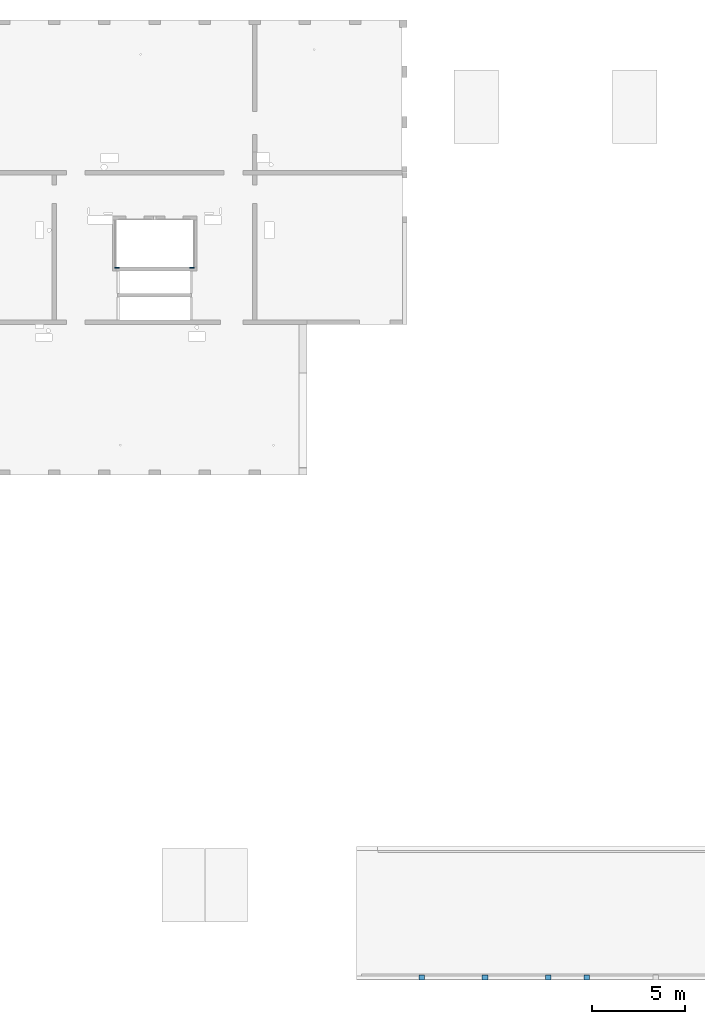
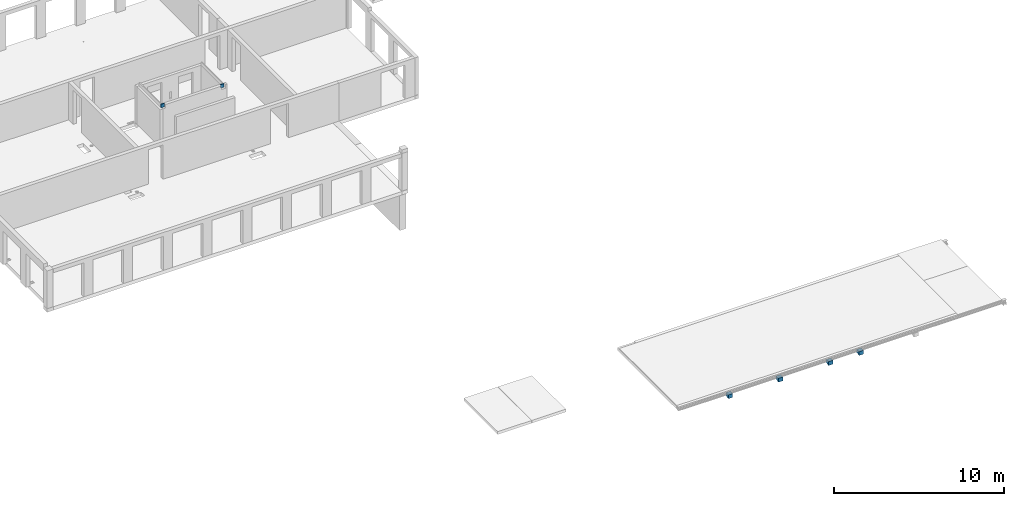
# One storey, part 13 of 14: 6 walls.
"""IFC2X3 building model written with IfcOpenShell, lengths in millimetres."""

from ifc_helpers import new_model, entity, si_unit, converted_unit, derived_unit, direction, frame, frame_2d, origin, place, context, subcontext, project, spatial, rectangle, extrude, faceted_brep, material, layer, layer_set, layer_usage, type_object, element, save


model = new_model("IFC2X3")

# Units and contexts
model_context = context("Model", 3, precision=0.01, world=origin(), true_north=direction((6.12303176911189e-17, 1.0)))
body_context = subcontext(model_context, "Body", "Model", "MODEL_VIEW")
ifc_project = project(units=[si_unit("LENGTHUNIT", "METRE", prefix="MILLI"), si_unit("AREAUNIT", "SQUARE_METRE"), si_unit("VOLUMEUNIT", "CUBIC_METRE"), converted_unit("PLANEANGLEUNIT", "DEGREE", entity("IfcRatioMeasure", 0.0174532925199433), si_unit("PLANEANGLEUNIT", "RADIAN"), dimensions=[0, 0, 0, 0, 0, 0, 0]), si_unit("MASSUNIT", "GRAM", prefix="KILO"), derived_unit("MASSDENSITYUNIT", [(si_unit("MASSUNIT", "GRAM", prefix="KILO"), 1), (si_unit("LENGTHUNIT", "METRE"), -3)]), si_unit("TIMEUNIT", "SECOND"), si_unit("FREQUENCYUNIT", "HERTZ"), si_unit("THERMODYNAMICTEMPERATUREUNIT", "DEGREE_CELSIUS"), derived_unit("THERMALTRANSMITTANCEUNIT", [(si_unit("MASSUNIT", "GRAM", prefix="KILO"), 1), (si_unit("THERMODYNAMICTEMPERATUREUNIT", "KELVIN"), -1), (si_unit("TIMEUNIT", "SECOND"), -3)]), derived_unit("VOLUMETRICFLOWRATEUNIT", [(si_unit("LENGTHUNIT", "METRE"), 3), (si_unit("TIMEUNIT", "SECOND"), -1)]), si_unit("ELECTRICCURRENTUNIT", "AMPERE"), si_unit("ELECTRICVOLTAGEUNIT", "VOLT"), si_unit("POWERUNIT", "WATT"), si_unit("FORCEUNIT", "NEWTON", prefix="KILO"), si_unit("ILLUMINANCEUNIT", "LUX"), si_unit("LUMINOUSFLUXUNIT", "LUMEN"), si_unit("LUMINOUSINTENSITYUNIT", "CANDELA"), derived_unit("USERDEFINED", [(si_unit("MASSUNIT", "GRAM", prefix="KILO"), -1), (si_unit("LENGTHUNIT", "METRE"), -2), (si_unit("TIMEUNIT", "SECOND"), 3), (si_unit("LUMINOUSFLUXUNIT", "LUMEN"), 1)]), derived_unit("LINEARVELOCITYUNIT", [(si_unit("LENGTHUNIT", "METRE"), 1), (si_unit("TIMEUNIT", "SECOND"), -1)]), si_unit("PRESSUREUNIT", "PASCAL"), derived_unit("USERDEFINED", [(si_unit("LENGTHUNIT", "METRE"), -2), (si_unit("MASSUNIT", "GRAM", prefix="KILO"), 1), (si_unit("TIMEUNIT", "SECOND"), -2)])], contexts=[model_context])

# Site, building, storey
site_placement = place(None, origin())
site = spatial("IfcSite", under=ifc_project, at=site_placement, Name="Default", CompositionType="ELEMENT")
building_placement = place(site_placement, origin())
building = spatial("IfcBuilding", under=site, at=building_placement, Name="niet gebruiken", CompositionType="ELEMENT")
storey_placement = place(building_placement, frame((0.0, 0.0, 15570.0)))
storey = spatial("IfcBuildingStorey", under=building, at=storey_placement, Name="05 vijfde verdieping", CompositionType="ELEMENT", Elevation=15570.0)

# Walls
ifc_material = material(Name="NLRS_f2_beton prefab")
wall_type_1 = type_object("IfcWallType", Name="NLRS_21.21_SF_WPB_oplegnok prefabbeton_gen:275x275 met afschuining 15gr", PredefinedType="NOTDEFINED", material=ifc_material)
for number, where, name in (
    (1, (114925.000813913, 1550.0, -740.0), "NLRS_21.21_SF_WPB_oplegnok prefabbeton_gen:275x275 met afschuining 15gr"),
    (2, (112850.000370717, 1550.0, -740.0), "NLRS_21.21_SF_WPB_oplegnok prefabbeton_gen:275x275 met afschuining 15gr"),
    (3, (109450.000370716, 1550.0, -740.0), "NLRS_21.21_SF_WPB_oplegnok prefabbeton_gen:275x275 met afschuining 15gr"),
    (4, (106050.000370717, 1550.0, -740.0), "NLRS_21.21_SF_WPB_oplegnok prefabbeton_gen:275x275 met afschuining 15gr"),
):
    element("IfcWall", number, at=place(storey_placement, frame(where)), inside=storey, type_object=wall_type_1, material=ifc_material, Name=name, ObjectType="NLRS_21.21_SF_WPB_oplegnok prefabbeton_gen:275x275 met afschuining 15gr", context=body_context, shape_type="Brep", body=[
        faceted_brep([(0.0, 0.0, 275.0), (0.0, 275.0, 275.0), (0.0, 275.0, 73.6860279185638), (0.0, 0.0, 0.0), (300.0, 0.0, 275.0), (300.0, 0.0, 0.0), (300.0, 275.0, 73.686027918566), (300.0, 275.0, 275.0)], [[[0, 1, 2, 3]], [[4, 5, 6, 7]], [[3, 5, 4, 0]], [[1, 7, 6, 2]], [[0, 4, 7, 1]], [[2, 6, 5, 3]]]),
    ])
ifc_layer = layer(ifc_material, 60.0)
ifc_layer_set = layer_set([ifc_layer], Name="Basic Wall:NLRS_22.21_WA_beton prefab d=60_gen")
ifc_layer_usage_1 = layer_usage(ifc_layer_set, "AXIS2", "NEGATIVE", 30.0)
wall_type_2 = type_object("IfcWallType", Name="Basic Wall:NLRS_22.21_WA_beton prefab d=60_gen", PredefinedType="STANDARD", material=ifc_layer_set)
wall_1_placement = place(storey_placement, frame((89665.02321398, 39916.0, 2630.0)))
element("IfcWallStandardCase", 5, at=wall_1_placement, inside=storey, type_object=wall_type_2, material=ifc_layer_usage_1, Name="Basic Wall:NLRS_22.21_WA_beton prefab d=60_gen", ObjectType="Basic Wall:NLRS_22.21_WA_beton prefab d=60_gen", context=body_context, shape_type="SweptSolid", body=[
    extrude(rectangle(XDim=234.976753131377, YDim=60.0000000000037, at=frame_2d((117.488376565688, -4.12292422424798e-12), x_axis=(-1.0, 0.0))), origin(), (0.0, 0.0, 1.0), 250.000000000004),
])
ifc_layer_usage_2 = layer_usage(ifc_layer_set, "AXIS2", "POSITIVE", -30.0)
wall_2_placement = place(storey_placement, frame((93934.9767860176, 39916.0, 2630.0), z_axis=(0.0, 0.0, 1.0), x_axis=(-1.0, 0.0, 0.0)))
element("IfcWallStandardCase", 6, at=wall_2_placement, inside=storey, type_object=wall_type_2, material=ifc_layer_usage_2, Name="Basic Wall:NLRS_22.21_WA_beton prefab d=60_gen", ObjectType="Basic Wall:NLRS_22.21_WA_beton prefab d=60_gen", context=body_context, shape_type="SweptSolid", body=[
    extrude(rectangle(XDim=234.976753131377, YDim=60.0000000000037, at=frame_2d((117.488376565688, 4.12114786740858e-12), x_axis=(-1.0, 0.0))), origin(), (0.0, 0.0, 1.0), 250.000000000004),
])

save(model, "model.ifc")
